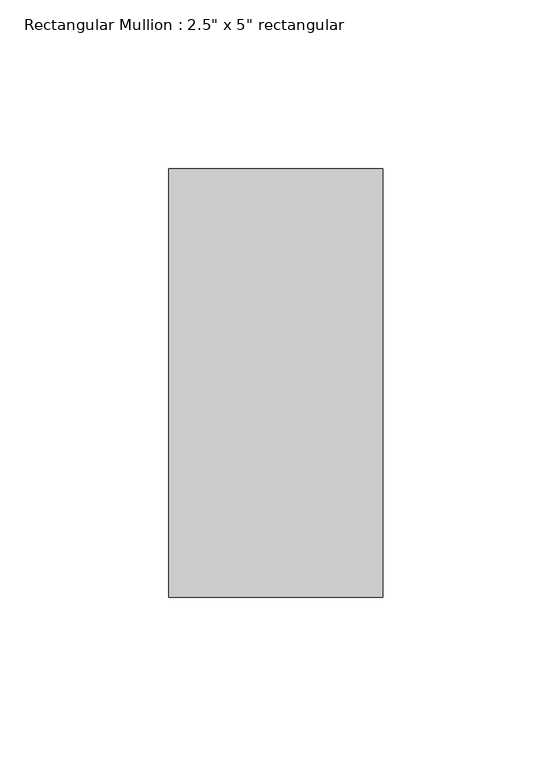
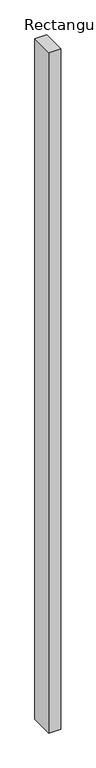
"""IFC4 building model written with IfcOpenShell, lengths in millimetres: member geometry."""

from ifc_helpers import new_model, si_unit, frame, origin, place, context, project, spatial, polyline, outline, extrude, source, transform, mapped, element, save


def member_bab2e2f0(model_context):
    return source(origin(), model_context, "Body", "SweptSolid", [
        extrude(outline(polyline([(31.75, 63.5), (31.75, -63.5), (-31.75, -63.5), (-31.75, 63.5), (31.75, 63.5)])), frame((0.0, 0.0, -3817.2757724), z_axis=(0.0, 0.0, 1.0), x_axis=(1.0, 0.0, 0.0)), (0.0, 0.0, 1.0), 3817.2757724),
    ])


if __name__ == "__main__":
    model = new_model("IFC4")
    model_context = context("Model", 3, world=origin())
    ifc_project = project(units=[si_unit("LENGTHUNIT", "METRE", prefix="MILLI")], contexts=[model_context])
    site = spatial("IfcSite", under=ifc_project)
    building = spatial("IfcBuilding", under=site)
    placement = place(None, origin())
    member_shape = member_bab2e2f0(model_context)
    element("IfcMember", 1, ObjectType="Rectangular Mullion : 2.5\" x 5\" rectangular", at=placement, inside=building, context=model_context, shape_type="MappedRepresentation", body=[
        mapped(member_shape, transform((0.0, 0.0, 0.0), x_axis=(1.0, 0.0, 0.0), y_axis=(0.0, 1.0, 0.0), z_axis=(0.0, 0.0, 1.0))),
    ])
    save(model, "model.ifc")
